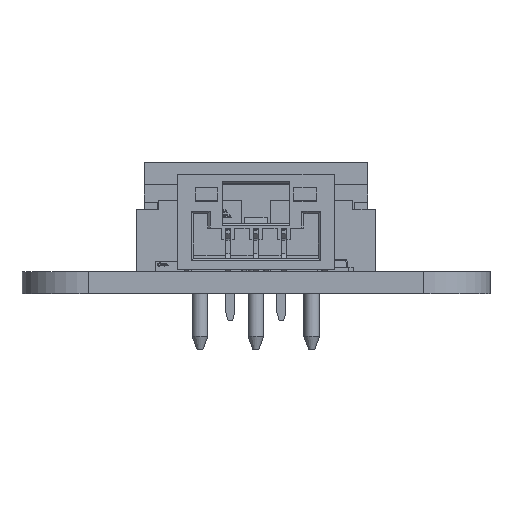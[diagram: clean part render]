
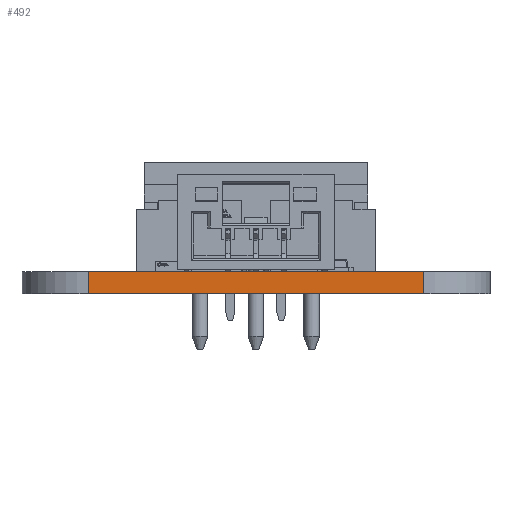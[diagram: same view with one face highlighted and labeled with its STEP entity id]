
A CAD part, front view. The second image highlights one B-rep face of the part: STEP entity #492.
In plain terms, the highlighted planar face has unit normal (0, -1, 0).
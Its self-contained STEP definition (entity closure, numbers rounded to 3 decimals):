
#465 = VERTEX_POINT('',#466);
#466 = CARTESIAN_POINT('',(15.004,-2.953,
    1.));
#473 = EDGE_CURVE('',#474,#465,#476,.T.);
#474 = VERTEX_POINT('',#475);
#475 = CARTESIAN_POINT('',(15.004,-2.953,0.));
#476 = LINE('',#477,#478);
#477 = CARTESIAN_POINT('',(15.004,-2.953,0.));
#478 = VECTOR('',#479,1.);
#479 = DIRECTION('',(0.,0.,1.));
#492 = ADVANCED_FACE('',(#493),#518,.T.);
#493 = FACE_BOUND('',#494,.T.);
#494 = EDGE_LOOP('',(#495,#496,#504,#512));
#495 = ORIENTED_EDGE('',*,*,#473,.T.);
#496 = ORIENTED_EDGE('',*,*,#497,.T.);
#497 = EDGE_CURVE('',#465,#498,#500,.T.);
#498 = VERTEX_POINT('',#499);
#499 = CARTESIAN_POINT('',(0.,-2.952,
    1.));
#500 = LINE('',#501,#502);
#501 = CARTESIAN_POINT('',(15.004,-2.953,
    1.));
#502 = VECTOR('',#503,1.);
#503 = DIRECTION('',(-1.,0.,0.));
#504 = ORIENTED_EDGE('',*,*,#505,.F.);
#505 = EDGE_CURVE('',#506,#498,#508,.T.);
#506 = VERTEX_POINT('',#507);
#507 = CARTESIAN_POINT('',(0.,-2.952,0.));
#508 = LINE('',#509,#510);
#509 = CARTESIAN_POINT('',(0.,-2.952,0.));
#510 = VECTOR('',#511,1.);
#511 = DIRECTION('',(0.,0.,1.));
#512 = ORIENTED_EDGE('',*,*,#513,.F.);
#513 = EDGE_CURVE('',#474,#506,#514,.T.);
#514 = LINE('',#515,#516);
#515 = CARTESIAN_POINT('',(15.004,-2.953,0.));
#516 = VECTOR('',#517,1.);
#517 = DIRECTION('',(-1.,0.,0.));
#518 = PLANE('',#519);
#519 = AXIS2_PLACEMENT_3D('',#520,#521,#522);
#520 = CARTESIAN_POINT('',(15.004,-2.953,0.));
#521 = DIRECTION('',(0.,-1.,0.));
#522 = DIRECTION('',(-1.,0.,0.));
